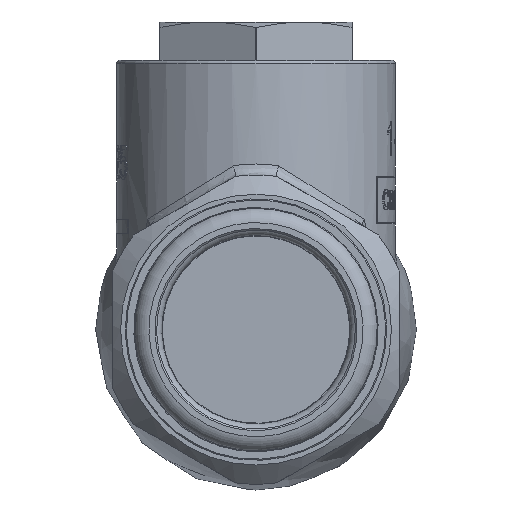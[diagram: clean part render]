
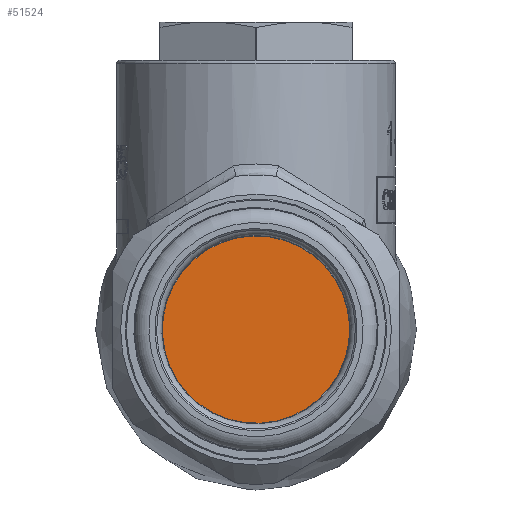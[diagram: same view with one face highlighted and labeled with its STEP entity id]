
A CAD part, left-side view. The second image highlights one B-rep face of the part: STEP entity #51524.
In plain terms, the highlighted planar face has unit normal (-1, 0, 0).
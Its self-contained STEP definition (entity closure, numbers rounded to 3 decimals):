
#51508=CARTESIAN_POINT('',(-96.6,7.193,-4.576));
#51509=DIRECTION('',(-1.0,0.0,0.0));
#51510=DIRECTION('',(0.0,0.537,0.844));
#51511=AXIS2_PLACEMENT_3D('',#51508,#51509,#51510);
#51512=PLANE('',#51511);
#51513=CARTESIAN_POINT('',(-96.6,14.386,-9.151));
#51514=VERTEX_POINT('',#51513);
#51515=CARTESIAN_POINT('',(-96.6,0.,0.));
#51516=DIRECTION('',(-1.,0.,0.));
#51517=DIRECTION('',(0.,0.844,-0.537));
#51518=AXIS2_PLACEMENT_3D('',#51515,#51516,#51517);
#51519=CIRCLE('',#51518,17.05);
#51520=EDGE_CURVE('',#51514,#51514,#51519,.T.);
#51521=ORIENTED_EDGE('',*,*,#51520,.T.);
#51522=EDGE_LOOP('',(#51521));
#51523=FACE_OUTER_BOUND('',#51522,.T.);
#51524=ADVANCED_FACE('',(#51523),#51512,.T.);
